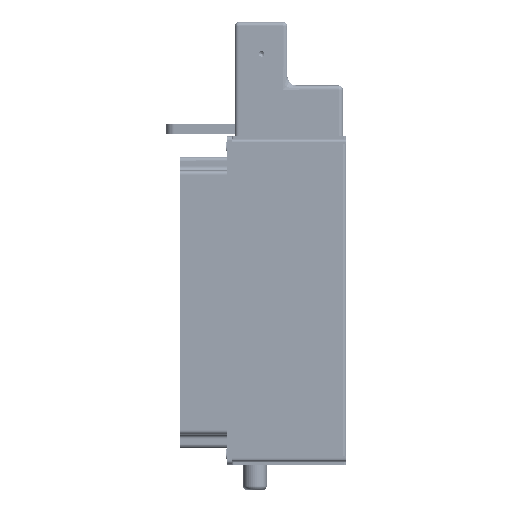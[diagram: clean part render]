
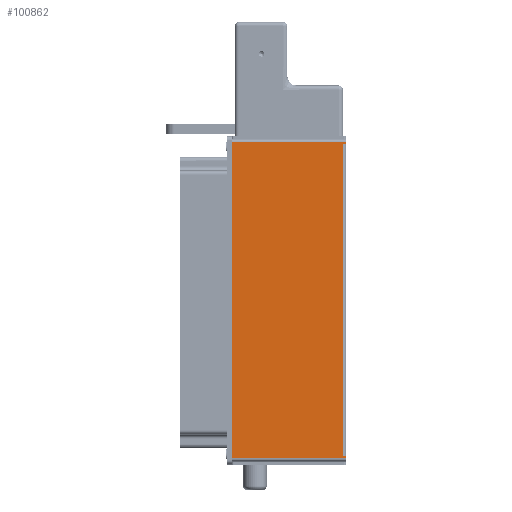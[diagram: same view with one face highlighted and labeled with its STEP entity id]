
A CAD part, front view. The second image highlights one B-rep face of the part: STEP entity #100862.
In plain terms, the highlighted planar face has unit normal (0, -1, 0).
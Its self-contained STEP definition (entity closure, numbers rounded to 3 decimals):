
#3322=LINE('',#153779,#9224);
#3337=LINE('',#153819,#9239);
#3340=LINE('',#153834,#9242);
#3351=LINE('',#153860,#9253);
#3352=LINE('',#153863,#9254);
#3354=LINE('',#153867,#9256);
#3356=LINE('',#153872,#9258);
#3359=LINE('',#153877,#9261);
#3361=LINE('',#153880,#9263);
#3362=LINE('',#153882,#9264);
#3363=LINE('',#153883,#9265);
#3364=LINE('',#153884,#9266);
#9224=VECTOR('',#124788,3.38);
#9239=VECTOR('',#124817,3.38);
#9242=VECTOR('',#124832,9.216);
#9253=VECTOR('',#124859,0.);
#9254=VECTOR('',#124862,0.);
#9256=VECTOR('',#124866,0.091);
#9258=VECTOR('',#124870,0.091);
#9261=VECTOR('',#124875,0.);
#9263=VECTOR('',#124879,0.);
#9264=VECTOR('',#124882,9.338);
#9265=VECTOR('',#124883,0.061);
#9266=VECTOR('',#124884,0.061);
#14548=PLANE('',#109792);
#24837=FACE_OUTER_BOUND('',#31870,.T.);
#31870=EDGE_LOOP('',(#71605,#71606,#71607,#71608,#71609,#71610,#71611,#71612,
#71613,#71614,#71615,#71616));
#46754=VERTEX_POINT('',#153776);
#46755=VERTEX_POINT('',#153778);
#46772=VERTEX_POINT('',#153816);
#46773=VERTEX_POINT('',#153818);
#46778=VERTEX_POINT('',#153831);
#46779=VERTEX_POINT('',#153833);
#46786=VERTEX_POINT('',#153858);
#46787=VERTEX_POINT('',#153862);
#46788=VERTEX_POINT('',#153866);
#46789=VERTEX_POINT('',#153870);
#46790=VERTEX_POINT('',#153871);
#46791=VERTEX_POINT('',#153876);
#56622=EDGE_CURVE('',#46755,#46754,#3322,.T.);
#56641=EDGE_CURVE('',#46773,#46772,#3337,.T.);
#56648=EDGE_CURVE('',#46779,#46778,#3340,.T.);
#56662=EDGE_CURVE('',#46778,#46786,#3351,.T.);
#56663=EDGE_CURVE('',#46786,#46787,#3352,.T.);
#56665=EDGE_CURVE('',#46787,#46788,#3354,.T.);
#56667=EDGE_CURVE('',#46789,#46790,#3356,.T.);
#56670=EDGE_CURVE('',#46790,#46791,#3359,.T.);
#56672=EDGE_CURVE('',#46791,#46779,#3361,.T.);
#56673=EDGE_CURVE('',#46754,#46773,#3362,.T.);
#56674=EDGE_CURVE('',#46772,#46789,#3363,.T.);
#56675=EDGE_CURVE('',#46788,#46755,#3364,.T.);
#71605=ORIENTED_EDGE('',*,*,#56622,.T.);
#71606=ORIENTED_EDGE('',*,*,#56673,.T.);
#71607=ORIENTED_EDGE('',*,*,#56641,.T.);
#71608=ORIENTED_EDGE('',*,*,#56674,.T.);
#71609=ORIENTED_EDGE('',*,*,#56667,.T.);
#71610=ORIENTED_EDGE('',*,*,#56670,.T.);
#71611=ORIENTED_EDGE('',*,*,#56672,.T.);
#71612=ORIENTED_EDGE('',*,*,#56648,.T.);
#71613=ORIENTED_EDGE('',*,*,#56662,.T.);
#71614=ORIENTED_EDGE('',*,*,#56663,.T.);
#71615=ORIENTED_EDGE('',*,*,#56665,.T.);
#71616=ORIENTED_EDGE('',*,*,#56675,.T.);
#100862=ADVANCED_FACE('',(#24837),#14548,.T.);
#109792=AXIS2_PLACEMENT_3D('',#153881,#124880,#124881);
#124788=DIRECTION('',(-1.,0.,0.));
#124817=DIRECTION('',(1.,0.,0.));
#124832=DIRECTION('',(0.,0.,1.));
#124859=DIRECTION('',(-1.,0.,0.));
#124862=DIRECTION('',(0.,0.,1.));
#124866=DIRECTION('',(1.,0.,0.));
#124870=DIRECTION('',(-1.,0.,0.));
#124875=DIRECTION('',(0.,0.,1.));
#124879=DIRECTION('',(1.,0.,0.));
#124880=DIRECTION('center_axis',(0.,-1.,0.));
#124881=DIRECTION('ref_axis',(0.,0.,-1.));
#124882=DIRECTION('',(0.,0.,-1.));
#124883=DIRECTION('',(0.,0.,1.));
#124884=DIRECTION('',(0.,0.,1.));
#153776=CARTESIAN_POINT('',(1.525,0.,9.032));
#153778=CARTESIAN_POINT('',(4.905,0.,9.032));
#153779=CARTESIAN_POINT('',(2.37,0.,9.032));
#153816=CARTESIAN_POINT('',(4.905,0.,-0.306));
#153818=CARTESIAN_POINT('',(1.525,0.,-0.306));
#153819=CARTESIAN_POINT('',(4.06,0.,-0.306));
#153831=CARTESIAN_POINT('',(4.814,0.,8.971));
#153833=CARTESIAN_POINT('',(4.814,0.,-0.245));
#153834=CARTESIAN_POINT('',(4.814,0.,6.667));
#153858=CARTESIAN_POINT('',(4.814,0.,8.971));
#153860=CARTESIAN_POINT('',(4.06,0.,8.971));
#153862=CARTESIAN_POINT('',(4.814,0.,8.971));
#153863=CARTESIAN_POINT('',(4.814,0.,6.667));
#153866=CARTESIAN_POINT('',(4.905,0.,8.971));
#153867=CARTESIAN_POINT('',(4.014,0.,8.971));
#153870=CARTESIAN_POINT('',(4.905,0.,-0.245));
#153871=CARTESIAN_POINT('',(4.814,0.,-0.245));
#153872=CARTESIAN_POINT('',(4.06,0.,-0.245));
#153876=CARTESIAN_POINT('',(4.814,0.,-0.245));
#153877=CARTESIAN_POINT('',(4.814,0.,2.059));
#153880=CARTESIAN_POINT('',(4.014,0.,-0.245));
#153881=CARTESIAN_POINT('Origin',(3.215,0.,
4.363));
#153882=CARTESIAN_POINT('',(1.525,0.,9.123));
#153883=CARTESIAN_POINT('',(4.905,0.,-0.397));
#153884=CARTESIAN_POINT('',(4.905,0.,-0.397));
